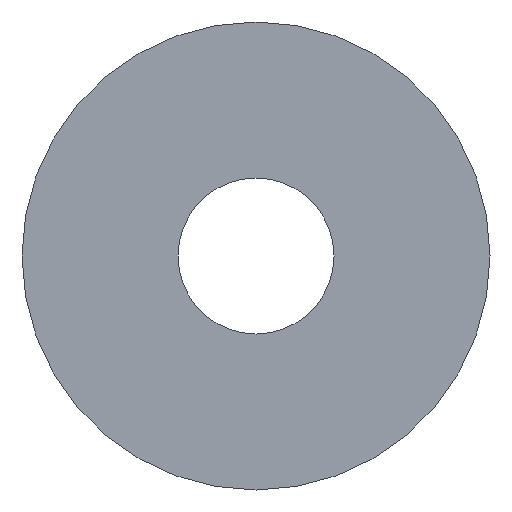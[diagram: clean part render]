
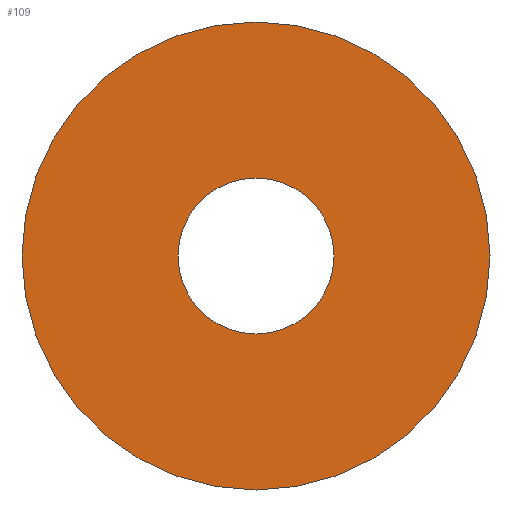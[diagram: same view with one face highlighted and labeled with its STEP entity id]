
A CAD part, front view. The second image highlights one B-rep face of the part: STEP entity #109.
In plain terms, the highlighted planar face has unit normal (0, -1, 0).
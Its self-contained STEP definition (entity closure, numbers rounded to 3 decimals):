
#6 = DIRECTION ( 'NONE',  ( 0., 0., 1. ) ) ;
#9 = VERTEX_POINT ( 'NONE', #33 ) ;
#26 = DIRECTION ( 'NONE',  ( 0., 1., 0. ) ) ;
#33 = CARTESIAN_POINT ( 'NONE',  ( 0., -5.5, 12. ) ) ;
#34 = ORIENTED_EDGE ( 'NONE', *, *, #156, .T. ) ;
#36 = AXIS2_PLACEMENT_3D ( 'NONE', #121, #26, #6 ) ;
#41 = DIRECTION ( 'NONE',  ( 0., 1., 0. ) ) ;
#43 = FACE_OUTER_BOUND ( 'NONE', #157, .T. ) ;
#54 = CARTESIAN_POINT ( 'NONE',  ( 0., -5.5, 0. ) ) ;
#60 = AXIS2_PLACEMENT_3D ( 'NONE', #93, #41, #137 ) ;
#70 = EDGE_CURVE ( 'NONE', #9, #9, #136, .T. ) ;
#80 = DIRECTION ( 'NONE',  ( 0., 1., 0. ) ) ;
#81 = AXIS2_PLACEMENT_3D ( 'NONE', #54, #80, #162 ) ;
#82 = PLANE ( 'NONE',  #60 ) ;
#93 = CARTESIAN_POINT ( 'NONE',  ( 4., -5.5, 0. ) ) ;
#109 = ADVANCED_FACE ( 'NONE', ( #43, #163 ), #82, .F. ) ;
#110 = VERTEX_POINT ( 'NONE', #155 ) ;
#117 = EDGE_LOOP ( 'NONE', ( #34 ) ) ;
#121 = CARTESIAN_POINT ( 'NONE',  ( 0., -5.5, 0. ) ) ;
#136 = CIRCLE ( 'NONE', #36, 12. ) ;
#137 = DIRECTION ( 'NONE',  ( 0., 0., 1. ) ) ;
#147 = ORIENTED_EDGE ( 'NONE', *, *, #70, .F. ) ;
#149 = CIRCLE ( 'NONE', #81, 4. ) ;
#155 = CARTESIAN_POINT ( 'NONE',  ( 0., -5.5, 4. ) ) ;
#156 = EDGE_CURVE ( 'NONE', #110, #110, #149, .T. ) ;
#157 = EDGE_LOOP ( 'NONE', ( #147 ) ) ;
#162 = DIRECTION ( 'NONE',  ( 0., 0., 1. ) ) ;
#163 = FACE_BOUND ( 'NONE', #117, .T. ) ;
